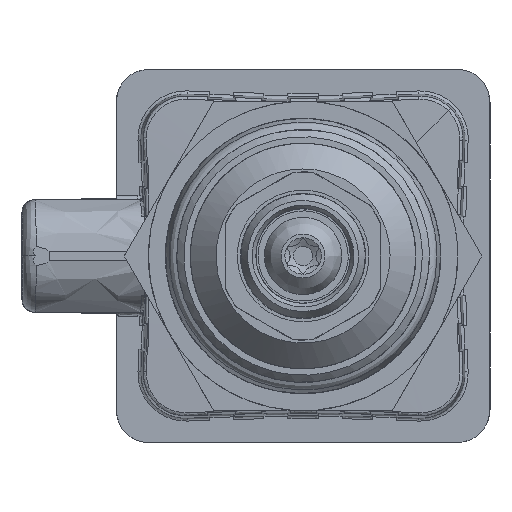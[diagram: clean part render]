
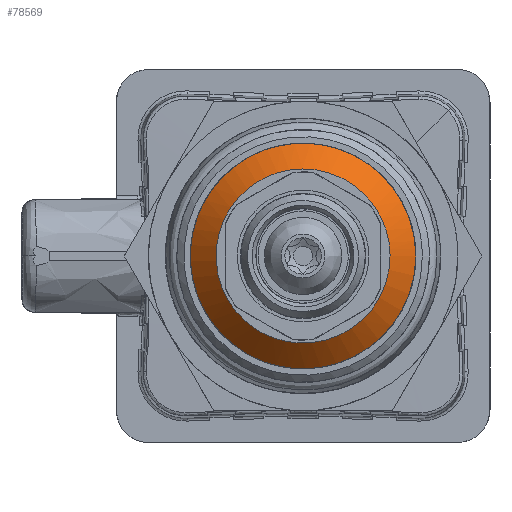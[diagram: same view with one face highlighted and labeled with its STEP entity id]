
A CAD part, front view. The second image highlights one B-rep face of the part: STEP entity #78569.
In plain terms, the highlighted free-form (B-spline) face has degree [2, 1] with [7, 2] control points.
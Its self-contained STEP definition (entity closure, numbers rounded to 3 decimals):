
#78491=CARTESIAN_POINT('V2515',(8.75,
   -27.3,0.0));
#78492=VERTEX_POINT('V2515',#78491);
#78498=CARTESIAN_POINT('E3967',(8.75,
   -27.3,0.0));
#78499=CARTESIAN_POINT('E3967',(8.75,
   -27.3,-15.155));
#78500=CARTESIAN_POINT('E3967',(-4.375,
   -27.3,-7.578));
#78501=CARTESIAN_POINT('E3967',(-17.5,
   -27.3,0.));
#78502=CARTESIAN_POINT('E3967',(-4.375,
   -27.3,7.578));
#78503=CARTESIAN_POINT('E3967',(8.75,
   -27.3,15.155));
#78504=CARTESIAN_POINT('E3967',(8.75,
   -27.3,0.0));
#78512=(BOUNDED_CURVE()B_SPLINE_CURVE(2,(#78498,#78499,#78500,
   #78501,#78502,#78503,#78504),.CIRCULAR_ARC.,.T.,.U.)
   B_SPLINE_CURVE_WITH_KNOTS((3,2,2,3),(0.0,60.622,
   121.244,181.865),.UNSPECIFIED.)CURVE()
   GEOMETRIC_REPRESENTATION_ITEM()RATIONAL_B_SPLINE_CURVE((1.0,
   0.5,1.0,0.5,1.0,0.5,1.0)
   )REPRESENTATION_ITEM('E3967'));
#78513=EDGE_CURVE('E3967',#78492,#78492,#78512,.T.);
#78519=CARTESIAN_POINT('F1537',(6.75,
   -29.3,0.0));
#78520=CARTESIAN_POINT('F1537',(6.75,
   -29.3,-11.691));
#78521=CARTESIAN_POINT('F1537',(-3.375,
   -29.3,-5.846));
#78522=CARTESIAN_POINT('F1537',(-13.5,
   -29.3,0.));
#78523=CARTESIAN_POINT('F1537',(-3.375,
   -29.3,5.846));
#78524=CARTESIAN_POINT('F1537',(6.75,
   -29.3,11.691));
#78525=CARTESIAN_POINT('F1537',(6.75,
   -29.3,0.0));
#78526=CARTESIAN_POINT('F1537',(8.75,
   -27.3,0.0));
#78527=CARTESIAN_POINT('F1537',(8.75,
   -27.3,-15.155));
#78528=CARTESIAN_POINT('F1537',(-4.375,
   -27.3,-7.578));
#78529=CARTESIAN_POINT('F1537',(-17.5,
   -27.3,0.));
#78530=CARTESIAN_POINT('F1537',(-4.375,
   -27.3,7.578));
#78531=CARTESIAN_POINT('F1537',(8.75,
   -27.3,15.155));
#78532=CARTESIAN_POINT('F1537',(8.75,
   -27.3,0.0));
#78540=(BOUNDED_SURFACE()B_SPLINE_SURFACE(2,1,((#78519,#78526),(
   #78520,#78527),(#78521,#78528),(#78522,#78529),(#78523,
   #78530),(#78524,#78531),(#78525,#78532)),.CONICAL_SURF.,.T.,
   .F.,.U.)B_SPLINE_SURFACE_WITH_KNOTS((3,2,2,3),(2,2),(0.0,
   9.492,18.984,28.475),(0.0,
   1.0),.UNSPECIFIED.)GEOMETRIC_REPRESENTATION_ITEM()
   RATIONAL_B_SPLINE_SURFACE(((1.0,1.0),(0.5,
   0.5),(1.0,1.0),(0.5,
   0.5),(1.0,1.0),(0.5,
   0.5),(1.0,1.0)))REPRESENTATION_ITEM('F1537')
   SURFACE());
#78541=CARTESIAN_POINT('V2516',(6.75,
   -29.3,0.0));
#78542=VERTEX_POINT('V2516',#78541);
#78543=CARTESIAN_POINT('E3968',(8.75,
   -27.3,0.0));
#78544=CARTESIAN_POINT('E3968',(6.75,
   -29.3,0.0));
#78545=QUASI_UNIFORM_CURVE('E3968',1,(#78543,#78544),.POLYLINE_FORM.,
   .F.,.U.);
#78546=EDGE_CURVE('E3968',#78492,#78542,#78545,.T.);
#78547=ORIENTED_EDGE('E3968',*,*,#78546,.T.);
#78548=CARTESIAN_POINT('E3969',(6.75,
   -29.3,0.0));
#78549=CARTESIAN_POINT('E3969',(6.75,
   -29.3,-11.691));
#78550=CARTESIAN_POINT('E3969',(-3.375,
   -29.3,-5.846));
#78551=CARTESIAN_POINT('E3969',(-13.5,
   -29.3,0.));
#78552=CARTESIAN_POINT('E3969',(-3.375,
   -29.3,5.846));
#78553=CARTESIAN_POINT('E3969',(6.75,
   -29.3,11.691));
#78554=CARTESIAN_POINT('E3969',(6.75,
   -29.3,0.0));
#78562=(BOUNDED_CURVE()B_SPLINE_CURVE(2,(#78548,#78549,#78550,
   #78551,#78552,#78553,#78554),.CIRCULAR_ARC.,.T.,.U.)
   B_SPLINE_CURVE_WITH_KNOTS((3,2,2,3),(0.0,9.492,
   18.984,28.475),.UNSPECIFIED.)CURVE()
   GEOMETRIC_REPRESENTATION_ITEM()RATIONAL_B_SPLINE_CURVE((1.0,
   0.5,1.0,0.5,1.0,0.5,1.0)
   )REPRESENTATION_ITEM('E3969'));
#78563=EDGE_CURVE('E3969',#78542,#78542,#78562,.T.);
#78564=ORIENTED_EDGE('E3969',*,*,#78563,.T.);
#78565=ORIENTED_EDGE('E3968',*,*,#78546,.F.);
#78566=ORIENTED_EDGE('E3967',*,*,#78513,.F.);
#78567=EDGE_LOOP('F1537',(#78547,#78564,#78565,#78566));
#78568=FACE_OUTER_BOUND('F1537',#78567,.T.);
#78569=ADVANCED_FACE('F1537',(#78568),#78540,.T.);
